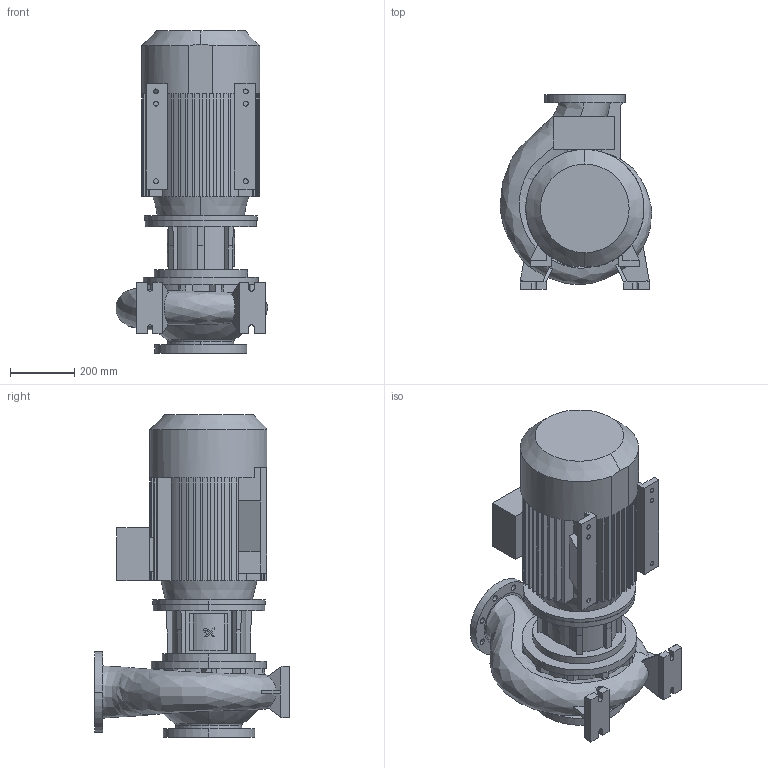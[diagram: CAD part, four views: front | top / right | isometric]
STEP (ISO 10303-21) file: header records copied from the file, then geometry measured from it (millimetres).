
FILE_DESCRIPTION (( 'STEP AP203' ), '1' );
FILE_NAME ('e1c1.STEP', '2024-06-13T10:52:36', ( '' ), ( '' ), 'SwSTEP 2.0', 'SolidWorks 2022', '' );
FILE_SCHEMA (( 'CONFIG_CONTROL_DESIGN' ));
Length unit declared in the file: millimetre
Products named in the file (31): 96146278; siemens_251_b35; Parent_pipecon_dn150_ConnectorSet_SW22; mf_0; 013-09_1_96145877_ConnectorSet_SW22; 013-05_1_96526147; pipecon_dn125; Parent_96146278_ConnectorSet_SW22; 013-03_1_96145877_ConnectorSet_SW22; 96526147; pipecon_dn150; Parent_96145877_ConnectorSet_SW22; Parent_siemens_251_b35_ConnectorSet_SW22; 96145877; 013-07_1_96526147; e1c1; Parent_mf_0; 013-15_1_siemens_251_b35_ConnectorSet_SW22; 013-02_1_96145877_ConnectorSet_SW22; 013-08_1_96146278_ConnectorSet_SW22; Parent_pipecon_dn125_ConnectorSet_SW22; 013-14_1_mf_0; Parent_96526147; 013-04_1_96145877_ConnectorSet_SW22
Assembly tree (14 placements, depth 3):
  Parent_pipecon_dn150_ConnectorSet_SW22
  013-09_1_96145877_ConnectorSet_SW22
  013-05_1_96526147
  Parent_96146278_ConnectorSet_SW22
  013-03_1_96145877_ConnectorSet_SW22
Bounding box: 470.78 x 605 x 1001 mm (x, y, z)
Volume: 93623551.2 mm3; surface area: 3527235.6 mm2
Topology: 7 solids, 7 shells, 550 faces, 1472 edges, 951 vertices
Faces by surface type: plane 351, cylinder 162, bspline 29, cone 4, sphere 2, torus 2
Entity records: 23824 total; most frequent: CARTESIAN_POINT 7264, ORIENTED_EDGE 2944, DIRECTION 2816, EDGE_CURVE 1472, AXIS2_PLACEMENT_3D 968, VERTEX_POINT 951, LINE 880, VECTOR 880
